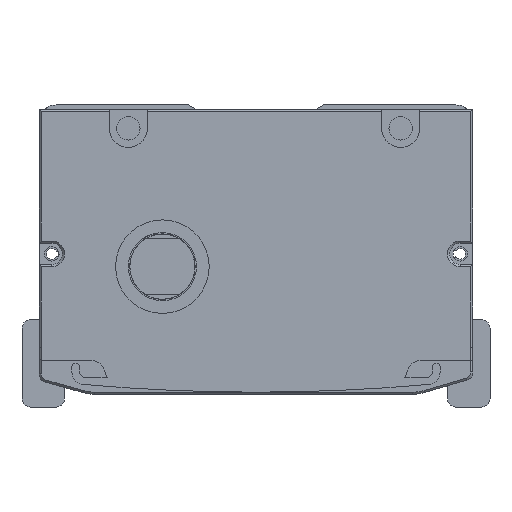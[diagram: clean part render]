
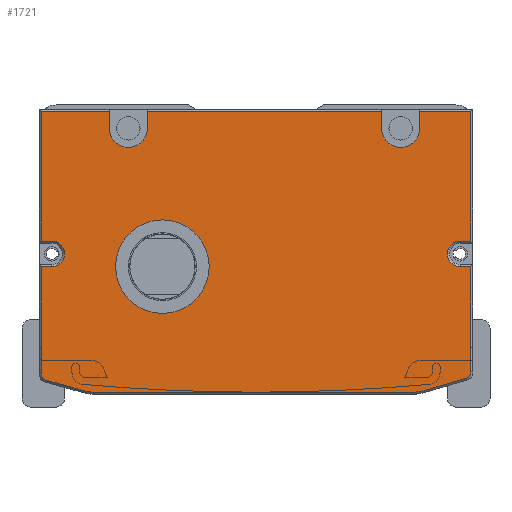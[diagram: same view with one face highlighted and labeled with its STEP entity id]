
A CAD part, front view. The second image highlights one B-rep face of the part: STEP entity #1721.
In plain terms, the highlighted planar face has unit normal (0, -1, 0).
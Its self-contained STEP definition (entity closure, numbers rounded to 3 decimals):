
#1018=FACE_BOUND('',#3599,.T.);
#1019=FACE_BOUND('',#3600,.T.);
#1721=ADVANCED_FACE('',(#1018,#1019),#2434,.F.);
#2434=PLANE('',#14626);
#3599=EDGE_LOOP('',(#6511));
#3600=EDGE_LOOP('',(#6512,#6513,#6514,#6515,#6516,#6517,#6518,#6519,#6520,
#6521,#6522,#6523,#6524,#6525,#6526,#6527,#6528,#6529,#6530,#6531,#6532,
#6533,#6534,#6535,#6536,#6537,#6538,#6539));
#4605=CIRCLE('',#14537,3.);
#4608=CIRCLE('',#14545,3.);
#4611=CIRCLE('',#14557,1.5);
#4613=CIRCLE('',#14561,9.5);
#4615=CIRCLE('',#14565,9.5);
#4617=CIRCLE('',#14569,1.5);
#4622=CIRCLE('',#14584,4.5);
#4626=CIRCLE('',#14590,4.5);
#4627=CIRCLE('',#14599,11.);
#6511=ORIENTED_EDGE('',*,*,#11044,.F.);
#6512=ORIENTED_EDGE('',*,*,#10938,.T.);
#6513=ORIENTED_EDGE('',*,*,#10834,.T.);
#6514=ORIENTED_EDGE('',*,*,#11025,.T.);
#6515=ORIENTED_EDGE('',*,*,#10838,.T.);
#6516=ORIENTED_EDGE('',*,*,#11073,.T.);
#6517=ORIENTED_EDGE('',*,*,#10844,.T.);
#6518=ORIENTED_EDGE('',*,*,#11021,.T.);
#6519=ORIENTED_EDGE('',*,*,#10848,.T.);
#6520=ORIENTED_EDGE('',*,*,#11074,.T.);
#6521=ORIENTED_EDGE('',*,*,#10942,.T.);
#6522=ORIENTED_EDGE('',*,*,#10948,.T.);
#6523=ORIENTED_EDGE('',*,*,#10951,.T.);
#6524=ORIENTED_EDGE('',*,*,#10954,.T.);
#6525=ORIENTED_EDGE('',*,*,#10956,.T.);
#6526=ORIENTED_EDGE('',*,*,#10986,.T.);
#6527=ORIENTED_EDGE('',*,*,#10990,.T.);
#6528=ORIENTED_EDGE('',*,*,#10993,.T.);
#6529=ORIENTED_EDGE('',*,*,#10996,.T.);
#6530=ORIENTED_EDGE('',*,*,#10999,.T.);
#6531=ORIENTED_EDGE('',*,*,#11002,.T.);
#6532=ORIENTED_EDGE('',*,*,#11005,.T.);
#6533=ORIENTED_EDGE('',*,*,#11007,.T.);
#6534=ORIENTED_EDGE('',*,*,#10984,.T.);
#6535=ORIENTED_EDGE('',*,*,#10974,.T.);
#6536=ORIENTED_EDGE('',*,*,#10971,.T.);
#6537=ORIENTED_EDGE('',*,*,#10968,.T.);
#6538=ORIENTED_EDGE('',*,*,#10965,.T.);
#6539=ORIENTED_EDGE('',*,*,#10960,.T.);
#9369=VERTEX_POINT('',#21525);
#9370=VERTEX_POINT('',#21527);
#9373=VERTEX_POINT('',#21534);
#9374=VERTEX_POINT('',#21536);
#9379=VERTEX_POINT('',#21547);
#9380=VERTEX_POINT('',#21549);
#9383=VERTEX_POINT('',#21556);
#9384=VERTEX_POINT('',#21558);
#9442=VERTEX_POINT('',#21744);
#9445=VERTEX_POINT('',#21752);
#9446=VERTEX_POINT('',#21753);
#9451=VERTEX_POINT('',#21764);
#9453=VERTEX_POINT('',#21770);
#9454=VERTEX_POINT('',#21775);
#9456=VERTEX_POINT('',#21781);
#9459=VERTEX_POINT('',#21789);
#9461=VERTEX_POINT('',#21795);
#9463=VERTEX_POINT('',#21801);
#9465=VERTEX_POINT('',#21807);
#9467=VERTEX_POINT('',#21813);
#9474=VERTEX_POINT('',#21837);
#9475=VERTEX_POINT('',#21841);
#9478=VERTEX_POINT('',#21848);
#9480=VERTEX_POINT('',#21854);
#9482=VERTEX_POINT('',#21860);
#9484=VERTEX_POINT('',#21866);
#9486=VERTEX_POINT('',#21872);
#9488=VERTEX_POINT('',#21878);
#9500=VERTEX_POINT('',#21951);
#10834=EDGE_CURVE('',#9370,#9369,#12491,.T.);
#10838=EDGE_CURVE('',#9374,#9373,#12495,.T.);
#10844=EDGE_CURVE('',#9380,#9379,#12501,.T.);
#10848=EDGE_CURVE('',#9384,#9383,#12505,.T.);
#10938=EDGE_CURVE('',#9442,#9370,#12578,.T.);
#10942=EDGE_CURVE('',#9445,#9446,#12582,.T.);
#10948=EDGE_CURVE('',#9446,#9451,#12588,.T.);
#10951=EDGE_CURVE('',#9451,#9453,#4605,.T.);
#10954=EDGE_CURVE('',#9453,#9454,#12592,.T.);
#10956=EDGE_CURVE('',#9454,#9456,#12594,.T.);
#10960=EDGE_CURVE('',#9459,#9442,#12598,.T.);
#10965=EDGE_CURVE('',#9461,#9459,#12603,.T.);
#10968=EDGE_CURVE('',#9463,#9461,#4608,.T.);
#10971=EDGE_CURVE('',#9465,#9463,#12607,.T.);
#10974=EDGE_CURVE('',#9467,#9465,#12610,.T.);
#10984=EDGE_CURVE('',#9474,#9467,#12618,.T.);
#10986=EDGE_CURVE('',#9456,#9475,#12620,.T.);
#10990=EDGE_CURVE('',#9475,#9478,#4611,.T.);
#10993=EDGE_CURVE('',#9478,#9480,#12625,.T.);
#10996=EDGE_CURVE('',#9480,#9482,#4613,.T.);
#10999=EDGE_CURVE('',#9482,#9484,#12629,.T.);
#11002=EDGE_CURVE('',#9484,#9486,#4615,.T.);
#11005=EDGE_CURVE('',#9486,#9488,#12633,.T.);
#11007=EDGE_CURVE('',#9488,#9474,#4617,.T.);
#11021=EDGE_CURVE('',#9379,#9384,#4622,.T.);
#11025=EDGE_CURVE('',#9369,#9374,#4626,.T.);
#11044=EDGE_CURVE('',#9500,#9500,#4627,.T.);
#11073=EDGE_CURVE('',#9373,#9380,#12684,.T.);
#11074=EDGE_CURVE('',#9383,#9445,#12685,.T.);
#12491=LINE('',#21526,#13431);
#12495=LINE('',#21535,#13435);
#12501=LINE('',#21548,#13441);
#12505=LINE('',#21557,#13445);
#12578=LINE('',#21743,#13518);
#12582=LINE('',#21751,#13522);
#12588=LINE('',#21765,#13528);
#12592=LINE('',#21777,#13532);
#12594=LINE('',#21780,#13534);
#12598=LINE('',#21788,#13538);
#12603=LINE('',#21798,#13543);
#12607=LINE('',#21810,#13547);
#12610=LINE('',#21816,#13550);
#12618=LINE('',#21836,#13558);
#12620=LINE('',#21840,#13560);
#12625=LINE('',#21855,#13565);
#12629=LINE('',#21867,#13569);
#12633=LINE('',#21879,#13573);
#12684=LINE('',#22013,#13624);
#12685=LINE('',#22014,#13625);
#13431=VECTOR('',#16759,1.);
#13435=VECTOR('',#16765,1.);
#13441=VECTOR('',#16773,1.);
#13445=VECTOR('',#16779,1.);
#13518=VECTOR('',#16946,1.);
#13522=VECTOR('',#16952,1.);
#13528=VECTOR('',#16960,1.);
#13532=VECTOR('',#16972,1.);
#13534=VECTOR('',#16976,1.);
#13538=VECTOR('',#16982,1.);
#13543=VECTOR('',#16989,1.);
#13547=VECTOR('',#17001,1.);
#13550=VECTOR('',#17006,1.);
#13558=VECTOR('',#17028,1.);
#13560=VECTOR('',#17032,1.);
#13565=VECTOR('',#17045,1.);
#13569=VECTOR('',#17057,1.);
#13573=VECTOR('',#17069,1.);
#13624=VECTOR('',#17236,1.);
#13625=VECTOR('',#17237,1.);
#14537=AXIS2_PLACEMENT_3D('',#21771,#16965,#16966);
#14545=AXIS2_PLACEMENT_3D('',#21804,#16995,#16996);
#14557=AXIS2_PLACEMENT_3D('',#21849,#17038,#17039);
#14561=AXIS2_PLACEMENT_3D('',#21861,#17050,#17051);
#14565=AXIS2_PLACEMENT_3D('',#21873,#17062,#17063);
#14569=AXIS2_PLACEMENT_3D('',#21882,#17073,#17074);
#14584=AXIS2_PLACEMENT_3D('',#21908,#17112,#17113);
#14590=AXIS2_PLACEMENT_3D('',#21916,#17124,#17125);
#14599=AXIS2_PLACEMENT_3D('',#21950,#17160,#17161);
#14626=AXIS2_PLACEMENT_3D('',#22015,#17238,#17239);
#16759=DIRECTION('',(0.,0.,-1.));
#16765=DIRECTION('',(0.,0.,1.));
#16773=DIRECTION('',(0.,0.,-1.));
#16779=DIRECTION('',(0.,0.,1.));
#16946=DIRECTION('',(-1.,0.,0.));
#16952=DIRECTION('',(0.,0.,-1.));
#16960=DIRECTION('',(1.,0.,0.));
#16965=DIRECTION('',(0.,1.,0.));
#16966=DIRECTION('',(0.,0.,1.));
#16972=DIRECTION('',(-1.,0.,0.));
#16976=DIRECTION('',(0.,0.,-1.));
#16982=DIRECTION('',(0.,0.,1.));
#16989=DIRECTION('',(1.,0.,0.));
#16995=DIRECTION('',(0.,1.,0.));
#16996=DIRECTION('',(0.,0.,1.));
#17001=DIRECTION('',(-1.,0.,0.));
#17006=DIRECTION('',(0.,0.,1.));
#17028=DIRECTION('',(0.,0.,1.));
#17032=DIRECTION('',(0.,0.,-1.));
#17038=DIRECTION('',(0.,-1.,0.));
#17039=DIRECTION('',(0.,0.,1.));
#17045=DIRECTION('',(0.963,0.,-0.269));
#17050=DIRECTION('',(0.,-1.,0.));
#17051=DIRECTION('',(0.,0.,1.));
#17057=DIRECTION('',(1.,0.,0.));
#17062=DIRECTION('',(0.,-1.,0.));
#17063=DIRECTION('',(0.,0.,1.));
#17069=DIRECTION('',(0.959,0.,0.282));
#17073=DIRECTION('',(0.,-1.,0.));
#17074=DIRECTION('',(0.,0.,1.));
#17112=DIRECTION('',(0.,1.,0.));
#17113=DIRECTION('',(0.,0.,1.));
#17124=DIRECTION('',(0.,1.,0.));
#17125=DIRECTION('',(0.,0.,1.));
#17160=DIRECTION('',(0.,-1.,0.));
#17161=DIRECTION('',(0.,0.,1.));
#17236=DIRECTION('',(-1.,0.,0.));
#17237=DIRECTION('',(-1.,0.,0.));
#17238=DIRECTION('',(0.,1.,0.));
#17239=DIRECTION('',(1.,0.,0.));
#21525=CARTESIAN_POINT('',(35.308,-357.5,-5.5));
#21526=CARTESIAN_POINT('',(35.308,-357.5,-1.));
#21527=CARTESIAN_POINT('',(35.308,-357.5,-1.5));
#21534=CARTESIAN_POINT('',(26.308,-357.5,-1.5));
#21535=CARTESIAN_POINT('',(26.308,-357.5,-1.));
#21536=CARTESIAN_POINT('',(26.308,-357.5,-5.5));
#21547=CARTESIAN_POINT('',(-28.692,-357.5,-5.5));
#21548=CARTESIAN_POINT('',(-28.692,-357.5,-1.));
#21549=CARTESIAN_POINT('',(-28.692,-357.5,-1.5));
#21556=CARTESIAN_POINT('',(-37.692,-357.5,-1.5));
#21557=CARTESIAN_POINT('',(-37.692,-357.5,-1.));
#21558=CARTESIAN_POINT('',(-37.692,-357.5,-5.5));
#21743=CARTESIAN_POINT('',(-53.692,-357.5,-1.5));
#21744=CARTESIAN_POINT('',(47.308,-357.5,-1.5));
#21751=CARTESIAN_POINT('',(-53.692,-357.5,-32.5));
#21752=CARTESIAN_POINT('',(-53.692,-357.5,-1.5));
#21753=CARTESIAN_POINT('',(-53.692,-357.5,-32.));
#21764=CARTESIAN_POINT('',(-51.192,-357.5,-32.));
#21765=CARTESIAN_POINT('',(-3.192,-357.5,-32.));
#21770=CARTESIAN_POINT('',(-51.192,-357.5,-38.));
#21771=CARTESIAN_POINT('',(-51.192,-357.5,-35.));
#21775=CARTESIAN_POINT('',(-53.692,-357.5,-38.));
#21777=CARTESIAN_POINT('',(-3.192,-357.5,-38.));
#21780=CARTESIAN_POINT('',(-53.692,-357.5,-57.));
#21781=CARTESIAN_POINT('',(-53.692,-357.5,-57.));
#21788=CARTESIAN_POINT('',(47.308,-357.5,-1.5));
#21789=CARTESIAN_POINT('',(47.308,-357.5,-32.));
#21795=CARTESIAN_POINT('',(44.808,-357.5,-32.));
#21798=CARTESIAN_POINT('',(-3.192,-357.5,-32.));
#21801=CARTESIAN_POINT('',(44.808,-357.5,-38.));
#21804=CARTESIAN_POINT('',(44.808,-357.5,-35.));
#21807=CARTESIAN_POINT('',(47.308,-357.5,-38.));
#21810=CARTESIAN_POINT('',(-3.192,-357.5,-38.));
#21813=CARTESIAN_POINT('',(47.308,-357.5,-57.));
#21816=CARTESIAN_POINT('',(47.308,-357.5,-37.5));
#21836=CARTESIAN_POINT('',(47.308,-357.5,-37.5));
#21837=CARTESIAN_POINT('',(47.308,-357.5,-62.758));
#21840=CARTESIAN_POINT('',(-53.692,-357.5,-59.712));
#21841=CARTESIAN_POINT('',(-53.692,-357.5,-63.212));
#21848=CARTESIAN_POINT('',(-52.596,-357.5,-64.657));
#21849=CARTESIAN_POINT('',(-52.192,-357.5,-63.212));
#21854=CARTESIAN_POINT('',(-43.674,-357.5,-67.15));
#21855=CARTESIAN_POINT('',(-43.674,-357.5,-67.15));
#21860=CARTESIAN_POINT('',(-41.118,-357.5,-67.5));
#21861=CARTESIAN_POINT('',(-41.118,-357.5,-58.));
#21866=CARTESIAN_POINT('',(33.631,-357.5,-67.5));
#21867=CARTESIAN_POINT('',(33.631,-357.5,-67.5));
#21872=CARTESIAN_POINT('',(36.312,-357.5,-67.114));
#21873=CARTESIAN_POINT('',(33.631,-357.5,-58.));
#21878=CARTESIAN_POINT('',(46.231,-357.5,-64.197));
#21879=CARTESIAN_POINT('',(46.231,-357.5,-64.197));
#21882=CARTESIAN_POINT('',(45.808,-357.5,-62.758));
#21908=CARTESIAN_POINT('',(-33.192,-357.5,-5.5));
#21916=CARTESIAN_POINT('',(30.808,-357.5,-5.5));
#21950=CARTESIAN_POINT('',(-25.192,-357.5,-38.));
#21951=CARTESIAN_POINT('',(-25.192,-357.5,-27.));
#22013=CARTESIAN_POINT('',(-53.692,-357.5,-1.5));
#22014=CARTESIAN_POINT('',(-53.692,-357.5,-1.5));
#22015=CARTESIAN_POINT('',(-3.192,-357.5,-1.));
